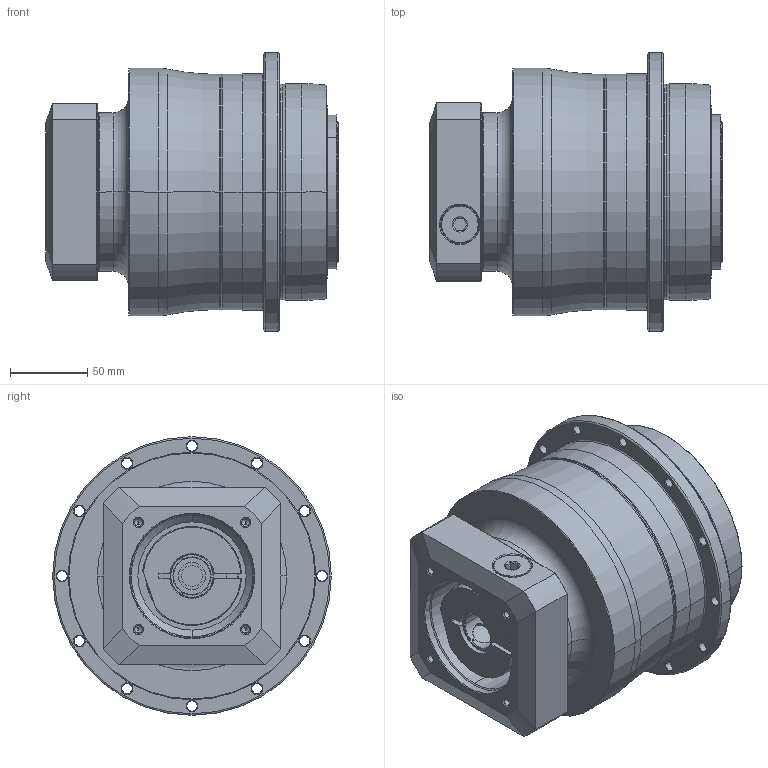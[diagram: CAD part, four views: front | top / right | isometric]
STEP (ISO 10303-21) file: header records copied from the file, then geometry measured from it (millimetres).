
FILE_DESCRIPTION((''),'2;1');
FILE_NAME('AH140_2ST_24-P0409500101_ASM','2016-08-05T',('d01943'),(''),'PRO/ENGINEER BY PARAMETRIC TECHNOLOGY CORPORATION, 2008410','PRO/ENGINEER BY PARAMETRIC TECHNOLOGY CORPORATION, 2008410','');
FILE_SCHEMA(('CONFIG_CONTROL_DESIGN'));
Length unit declared in the file: millimetre
Products named in the file (8): P0278500003; P0359500002; P1317500101; P0409500101; P0503500010; P0912401001; 21711418017; AH140_2ST_24-P0409500101_ASM
Assembly tree (7 placements, depth 2):
  AH140_2ST_24-P0409500101_ASM
    P0278500003
    P0359500002
    P1317500101
    P0409500101
    P0503500010
    P0912401001
    21711418017
Bounding box: 189 x 180 x 180 mm (x, y, z)
Volume: 2721788.3 mm3; surface area: 296620.4 mm2
Topology: 8 solids, 8 shells, 543 faces, 1235 edges, 725 vertices
Faces by surface type: cylinder 208, cone 168, plane 95, torus 58, bspline 14
Entity records: 19876 total; most frequent: CARTESIAN_POINT 7434, DIRECTION 2801, ORIENTED_EDGE 2378, EDGE_CURVE 1189, AXIS2_PLACEMENT_3D 1177, VERTEX_POINT 725, EDGE_LOOP 644, CIRCLE 633
